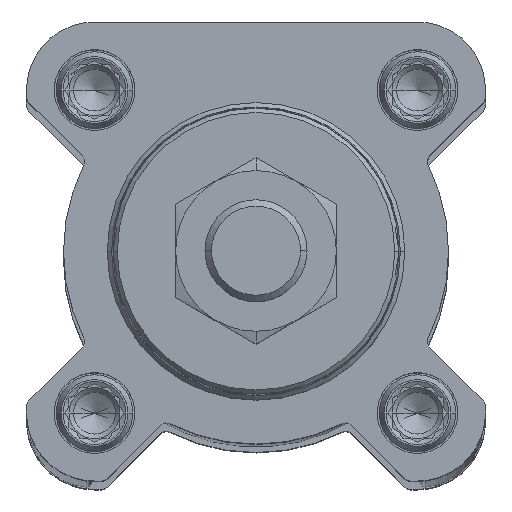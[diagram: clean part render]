
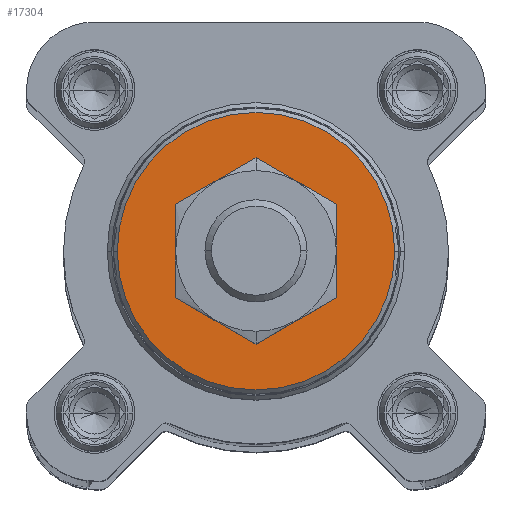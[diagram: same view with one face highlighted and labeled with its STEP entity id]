
A CAD part, top view. The second image highlights one B-rep face of the part: STEP entity #17304.
In plain terms, the highlighted planar face has unit normal (0, 0, 1).
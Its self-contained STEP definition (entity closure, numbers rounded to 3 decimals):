
#1250 = FACE_BOUND ( 'NONE', #2812, .T. ) ;
#1672 = CIRCLE ( 'NONE', #7994, 16.32 ) ;
#1685 = EDGE_CURVE ( 'NONE', #10628, #11322, #1672, .T. ) ;
#1927 = CIRCLE ( 'NONE', #2882, 8. ) ;
#2007 = CARTESIAN_POINT ( 'NONE',  ( -16.32, 0., 21.3 ) ) ;
#2415 = EDGE_CURVE ( 'NONE', #10191, #19652, #1927, .T. ) ;
#2812 = EDGE_LOOP ( 'NONE', ( #10607, #4586 ) ) ;
#2882 = AXIS2_PLACEMENT_3D ( 'NONE', #19078, #12897, #13003 ) ;
#4197 = CARTESIAN_POINT ( 'NONE',  ( 0., 0., 21.3 ) ) ;
#4221 = CARTESIAN_POINT ( 'NONE',  ( 0., 0., 21.3 ) ) ;
#4346 = CIRCLE ( 'NONE', #12597, 16.32 ) ;
#4586 = ORIENTED_EDGE ( 'NONE', *, *, #14930, .T. ) ;
#4892 = EDGE_CURVE ( 'NONE', #11322, #10628, #4346, .T. ) ;
#5003 = CARTESIAN_POINT ( 'NONE',  ( -8., 0., 21.3 ) ) ;
#5052 = DIRECTION ( 'NONE',  ( -1., 0., 0. ) ) ;
#6432 = CARTESIAN_POINT ( 'NONE',  ( 0., 0., 21.3 ) ) ;
#6840 = CIRCLE ( 'NONE', #16692, 8. ) ;
#7994 = AXIS2_PLACEMENT_3D ( 'NONE', #4197, #10164, #8758 ) ;
#8025 = CARTESIAN_POINT ( 'NONE',  ( 0., 0., 21.3 ) ) ;
#8758 = DIRECTION ( 'NONE',  ( -1., 0., 0. ) ) ;
#10164 = DIRECTION ( 'NONE',  ( 0., 0., -1. ) ) ;
#10191 = VERTEX_POINT ( 'NONE', #5003 ) ;
#10345 = ORIENTED_EDGE ( 'NONE', *, *, #4892, .F. ) ;
#10583 = CARTESIAN_POINT ( 'NONE',  ( 16.32, 0., 21.3 ) ) ;
#10607 = ORIENTED_EDGE ( 'NONE', *, *, #2415, .T. ) ;
#10623 = CARTESIAN_POINT ( 'NONE',  ( 8., 0., 21.3 ) ) ;
#10628 = VERTEX_POINT ( 'NONE', #2007 ) ;
#10809 = DIRECTION ( 'NONE',  ( 0., 0., -1. ) ) ;
#10930 = DIRECTION ( 'NONE',  ( 0., 0., -1. ) ) ;
#11322 = VERTEX_POINT ( 'NONE', #10583 ) ;
#11875 = PLANE ( 'NONE',  #13912 ) ;
#12106 = EDGE_LOOP ( 'NONE', ( #18767, #10345 ) ) ;
#12597 = AXIS2_PLACEMENT_3D ( 'NONE', #6432, #10809, #17189 ) ;
#12897 = DIRECTION ( 'NONE',  ( 0., 0., -1. ) ) ;
#13003 = DIRECTION ( 'NONE',  ( -1., 0., 0. ) ) ;
#13912 = AXIS2_PLACEMENT_3D ( 'NONE', #4221, #10930, #15515 ) ;
#14093 = DIRECTION ( 'NONE',  ( 0., 0., -1. ) ) ;
#14930 = EDGE_CURVE ( 'NONE', #19652, #10191, #6840, .T. ) ;
#15515 = DIRECTION ( 'NONE',  ( 0., -1., 0. ) ) ;
#16692 = AXIS2_PLACEMENT_3D ( 'NONE', #8025, #14093, #5052 ) ;
#17189 = DIRECTION ( 'NONE',  ( -1., 0., 0. ) ) ;
#17304 = ADVANCED_FACE ( 'NONE', ( #17943, #1250 ), #11875, .F. ) ;
#17943 = FACE_OUTER_BOUND ( 'NONE', #12106, .T. ) ;
#18767 = ORIENTED_EDGE ( 'NONE', *, *, #1685, .F. ) ;
#19078 = CARTESIAN_POINT ( 'NONE',  ( 0., 0., 21.3 ) ) ;
#19652 = VERTEX_POINT ( 'NONE', #10623 ) ;
